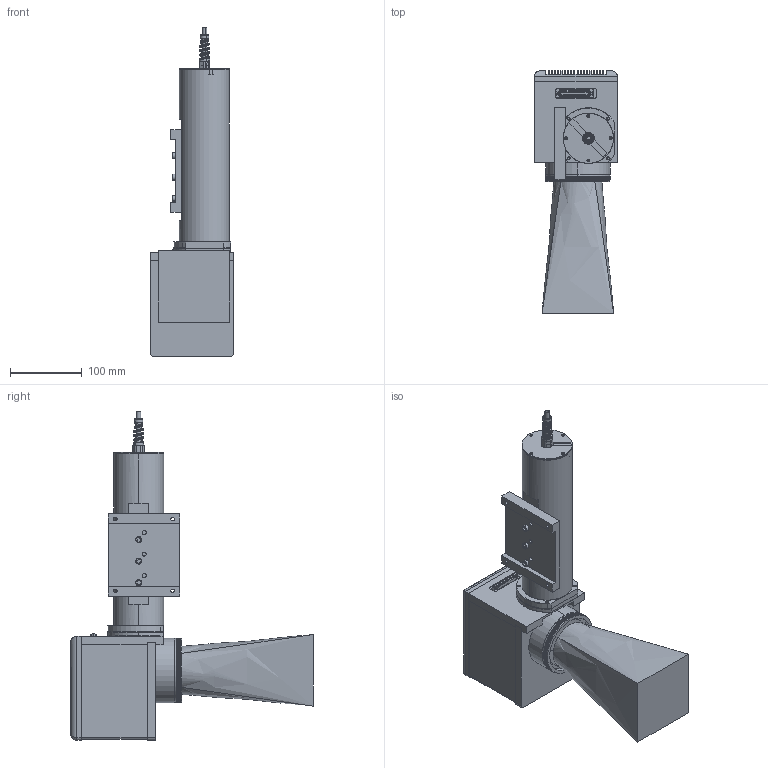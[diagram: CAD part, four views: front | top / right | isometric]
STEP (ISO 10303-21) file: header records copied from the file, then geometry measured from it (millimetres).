
FILE_DESCRIPTION (( 'STEP AP203' ), '1' );
FILE_NAME ('7 100 027 + 7 400 034 + 7 100 042 + 7 100 025.STEP', '2012-02-16T10:15:39', ( 'Sic Marking' ), ( '' ), 'SwSTEP 2.0', 'SolidWorks 2011', '' );
FILE_SCHEMA (( 'CONFIG_CONTROL_DESIGN' ));
Products named in the file (1): 7 100 027 + 7 400 034 + 7 100 042 + 7 100 025
Bounding box: 115.8 x 338.5 x 458.3 mm (x, y, z)
Volume: 2466779.6 mm3; surface area: 552064 mm2
Topology: 22 solids, 23 shells, 3236 faces, 7492 edges, 4370 vertices
Faces by surface type: plane 1381, cylinder 894, cone 893, torus 41, bspline 27
Entity records: 100834 total; most frequent: CARTESIAN_POINT 28781, DIRECTION 15281, ORIENTED_EDGE 14900, EDGE_CURVE 7450, AXIS2_PLACEMENT_3D 6164, VERTEX_POINT 4370, EDGE_LOOP 3464, ADVANCED_FACE 3236
